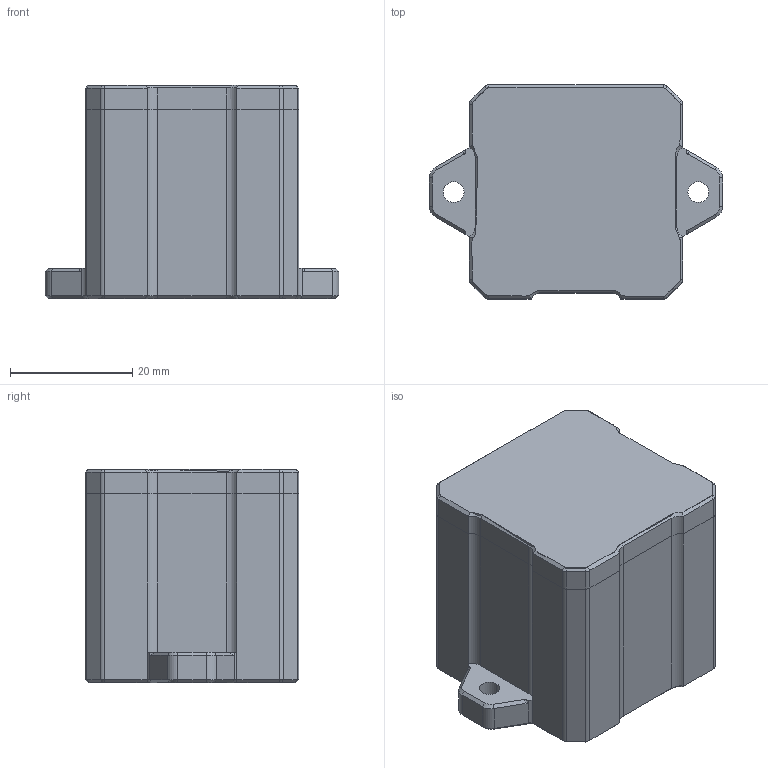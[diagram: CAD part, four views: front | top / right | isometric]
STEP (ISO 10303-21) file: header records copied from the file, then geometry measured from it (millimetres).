
FILE_DESCRIPTION (( 'STEP AP203' ), '1' );
FILE_NAME ('TransducerM_TM362_3D-Shape_V1-1-1.STEP', '2023-12-21T06:34:50', ( '' ), ( '' ), 'SwSTEP 2.0', 'SolidWorks 2017', '' );
FILE_SCHEMA (( 'CONFIG_CONTROL_DESIGN' ));
Length unit declared in the file: millimetre
Products named in the file (1): TransducerM_TM362_3D-Shape_V1-1-1
Bounding box: 48 x 35 x 35 mm (x, y, z)
Volume: 41374.1 mm3; surface area: 9845.6 mm2
Topology: 2 solids, 2 shells, 209 faces, 534 edges, 330 vertices
Faces by surface type: plane 117, cylinder 53, cone 39
Entity records: 6339 total; most frequent: CARTESIAN_POINT 1276, ORIENTED_EDGE 1068, DIRECTION 1009, EDGE_CURVE 534, VECTOR 347, LINE 347, AXIS2_PLACEMENT_3D 331, VERTEX_POINT 330
